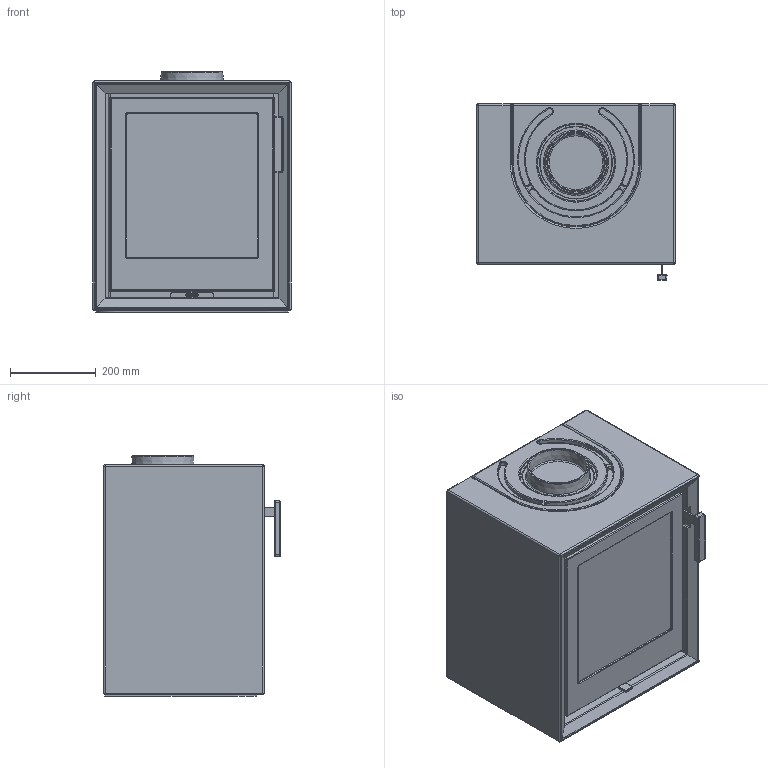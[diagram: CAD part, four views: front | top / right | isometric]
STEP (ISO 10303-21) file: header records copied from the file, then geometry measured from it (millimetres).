
FILE_DESCRIPTION(/* description */ ('Unknown'),/* implementation_level */ '2;1');
FILE_NAME(/* name */ 'DSN1099960_0_asm',/* time_stamp */ '2024-07-04T15:35:40+02:00',/* author */ ('Unknown'),/* organization */ ('NIBE AB'),/* preprocessor_version */ 'ST-DEVELOPER v18.102',/* originating_system */ 'Solid Edge',/* authorisation */ 'Unknown');
FILE_SCHEMA (('CONFIG_CONTROL_DESIGN'));
Length unit declared in the file: millimetre
Products named in the file (7): DSN1099960; DSN1075845; DSN1075829; DSN1075850; DSN1085274; DSN1075838; DSN1075840
Assembly tree (6 placements, depth 2):
  DSN1099960
    DSN1075845
    DSN1075829
    DSN1075850
    DSN1085274
    DSN1075838
    DSN1075840
Bounding box: 463 x 412.5 x 562 mm (x, y, z)
Volume: 55191006.8 mm3; surface area: 5220520 mm2
Topology: 6 solids, 6 shells, 1110 faces, 2446 edges, 1515 vertices
Faces by surface type: plane 536, cylinder 351, bspline 143, torus 48, sphere 30, cone 2
Full cylindrical faces by diameter (mm): 4.7 x2, 5.7 x7, 6 x8, 7.2 x10, 8.4 x138, 168 x1, 181 x1
Entity records: 35464 total; most frequent: CARTESIAN_POINT 11331, DIRECTION 4760, ORIENTED_EDGE 4400, EDGE_CURVE 2200, AXIS2_PLACEMENT_3D 1798, EDGE_LOOP 1528, FACE_BOUND 1528, VERTEX_POINT 1502
